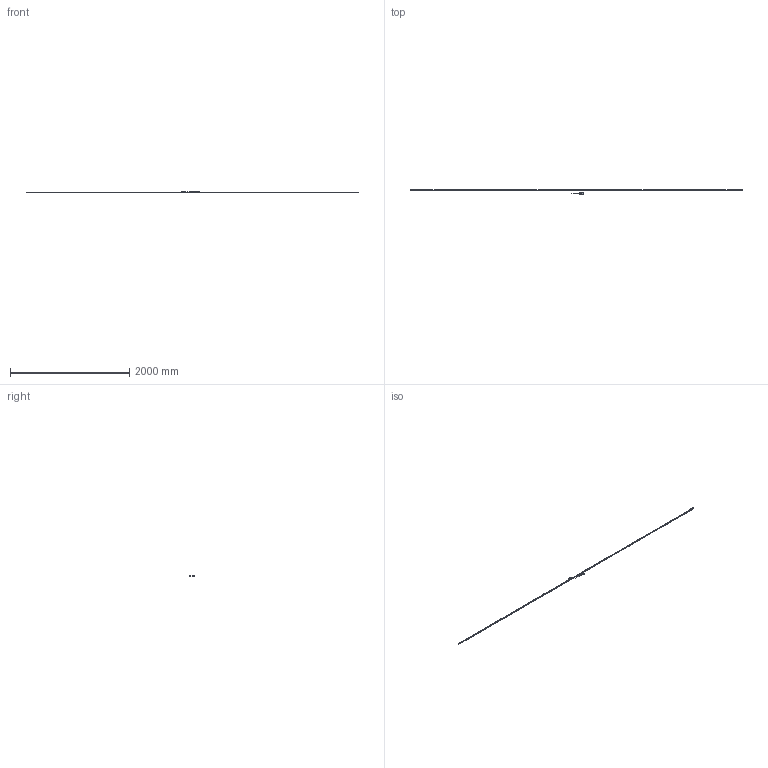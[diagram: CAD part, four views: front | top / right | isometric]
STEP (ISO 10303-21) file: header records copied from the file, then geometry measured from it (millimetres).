
FILE_DESCRIPTION(('Creo Elements/Direct Modeling STEP Export'),'2;1');
FILE_NAME('ST1300-5400D.stp','2018-03-01T15:04:54',(''),(''),'Creo Elements/Direct Modeling STEP processor for AP214 (Solid Model)','Creo Elements/Direct Modeling 18.1B 29-Sep-2012 (C) Parametric Technology GmbH','');
FILE_SCHEMA(('AUTOMOTIVE_DESIGN { 1 0 10303 214 1 1 1 1 }'));
Products named in the file (4): Scale_5400; Detector_Head; Connector; ST1300-5400D
Assembly tree (3 placements, depth 2):
  ST1300-5400D
    Connector
    Detector_Head
    Scale_5400
Bounding box: 5573 x 88.3 x 30.1 mm (x, y, z)
Volume: 481340.9 mm3; surface area: 310602.9 mm2
Topology: 2 solids, 10 shells, 5032 faces, 13576 edges, 8773 vertices
Faces by surface type: plane 2292, cylinder 1942, extrusion 606, cone 119, torus 46, bspline 23, revolution 4
Entity records: 164306 total; most frequent: CARTESIAN_POINT 40238, ORIENTED_EDGE 27128, DIRECTION 23254, EDGE_CURVE 13560, VERTEX_POINT 8773, VECTOR 8202, LINE 7626, AXIS2_PLACEMENT_3D 7523
